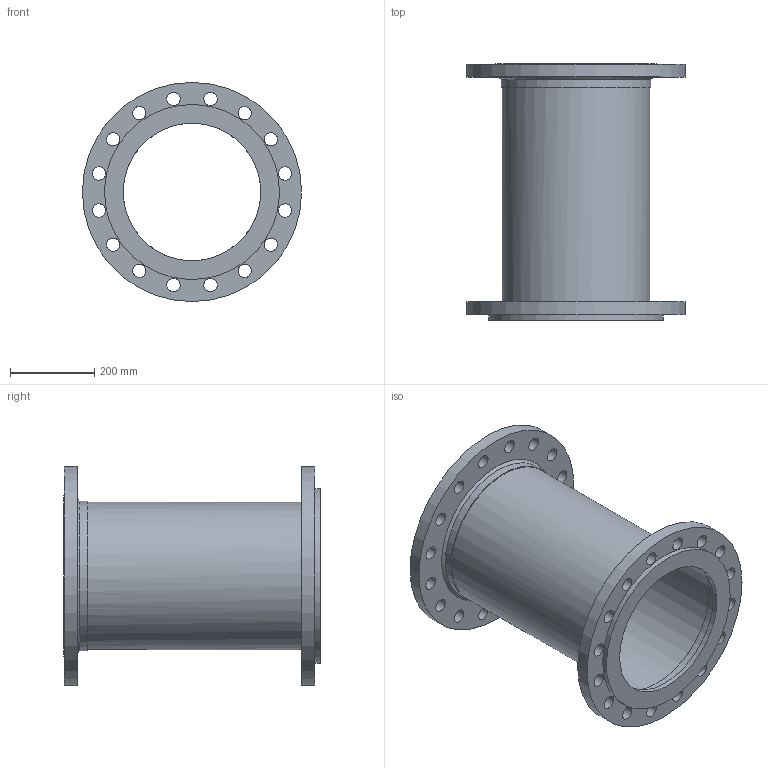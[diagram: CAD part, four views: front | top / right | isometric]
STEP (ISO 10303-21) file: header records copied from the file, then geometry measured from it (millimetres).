
FILE_DESCRIPTION(/* description */ (''),/* implementation_level */ '2;1');
FILE_NAME(/* name */ 'C:\001_Work\Designs\FFL2B-300\FFL2B-300-12x24.stp',/* time_stamp */ '2016-06-14T12:46:17-04:00',/* author */ ('rramoutar'),/* organization */ ('Mason Industries Inc.'),/* preprocessor_version */ 'ST-DEVELOPER v15.6',/* originating_system */ 'Autodesk Inventor 2015',/* authorisation */ '');
FILE_SCHEMA (('CONFIG_CONTROL_DESIGN'));
Length unit declared in the file: inch
Products named in the file (1): FFL2B-300-12x24
Bounding box: 520.7 x 609.6 x 520.7 mm (x, y, z)
Volume: 7807971.9 mm3; surface area: 2013688.1 mm2
Topology: 1 solids, 1 shells, 57 faces, 171 edges, 125 vertices
Faces by surface type: cylinder 43, plane 11, cone 3
Full cylindrical faces by diameter (mm): 31.75 x32, 327.025 x2, 350.52 x1, 351.536 x1, 356.298 x2, 360.362 x1, 381 x1, 415.925 x1, 520.7 x2
Entity records: 1692 total; most frequent: DIRECTION 294, CARTESIAN_POINT 236, EDGE_LOOP 178, ORIENTED_EDGE 178, AXIS2_PLACEMENT_3D 147, FACE_BOUND 121, CIRCLE 89, VERTEX_POINT 89
